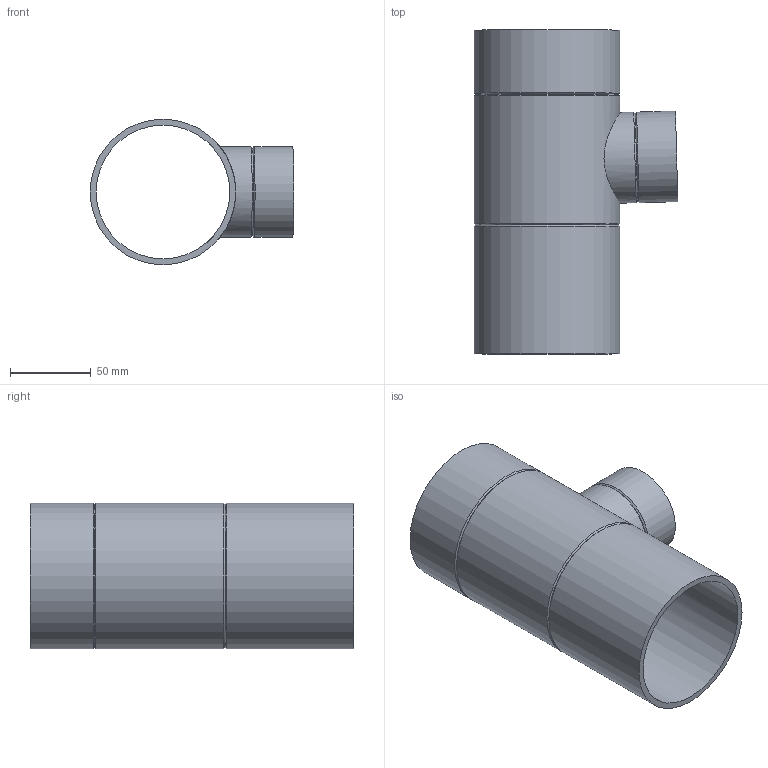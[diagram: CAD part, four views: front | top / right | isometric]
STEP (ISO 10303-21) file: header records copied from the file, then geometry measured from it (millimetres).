
FILE_DESCRIPTION(/* description */ (''),/* implementation_level */ '2;1');
FILE_NAME(/* name */ 'Z:\Geberit\Export\NewStep\366165.stp',/* time_stamp */ '2014-04-02T07:53:56+02:00',/* author */ ('nelson'),/* organization */ (''),/* preprocessor_version */ 'ST-DEVELOPER v15.2',/* originating_system */ 'Autodesk Inventor 2014',/* authorisation */ '');
FILE_SCHEMA (('AUTOMOTIVE_DESIGN { 1 0 10303 214 3 1 1 }'));
Length unit declared in the file: millimetre
Products named in the file (1): 366165
Bounding box: 126.4 x 201 x 90.38 mm (x, y, z)
Volume: 213981.5 mm3; surface area: 121707.9 mm2
Topology: 1 solids, 1 shells, 16 faces, 37 edges, 23 vertices
Faces by surface type: cylinder 7, cone 6, plane 3
Full cylindrical faces by diameter (mm): 49.95 x1, 56.25 x2, 83.02 x1, 90.38 x3
Entity records: 503 total; most frequent: CARTESIAN_POINT 181, DIRECTION 64, EDGE_LOOP 34, ORIENTED_EDGE 34, AXIS2_PLACEMENT_3D 32, FACE_BOUND 22, VERTEX_POINT 17, EDGE_CURVE 17
